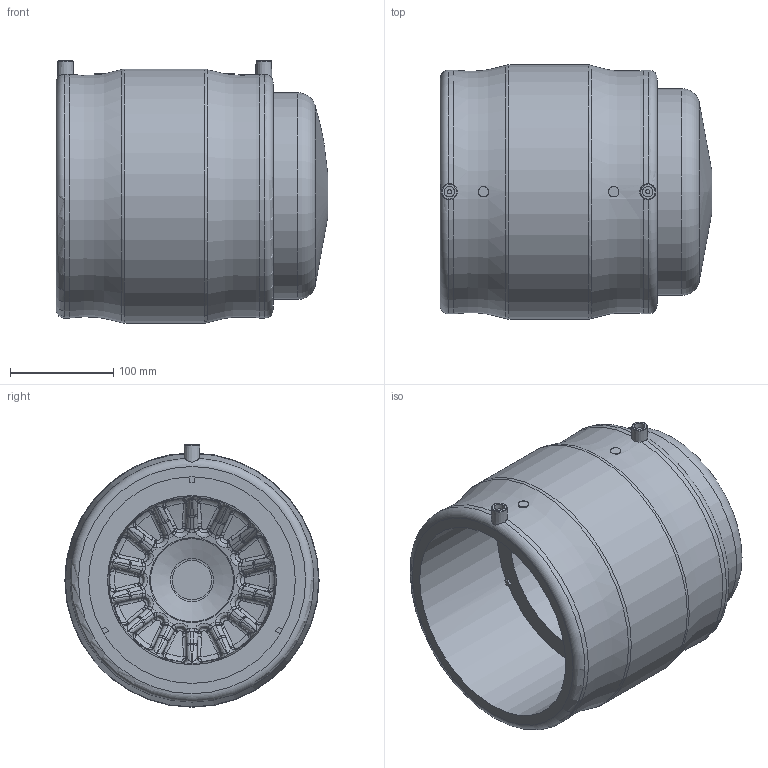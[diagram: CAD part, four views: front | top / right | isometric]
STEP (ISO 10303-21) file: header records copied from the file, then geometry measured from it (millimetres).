
FILE_DESCRIPTION(/* description */ ('Unknown'),/* implementation_level */ '2;1');
FILE_NAME(/* name */ 'CAEP200C',/* time_stamp */ '2021-02-11T10:25:30+01:00',/* author */ ('Unknown'),/* organization */ ('Unknown'),/* preprocessor_version */ 'ST-DEVELOPER v16.7',/* originating_system */ 'Solid Edge',/* authorisation */ 'Unknown');
FILE_SCHEMA (('AUTOMOTIVE_DESIGN {1 0 10303 214 3 1 1}'));
Length unit declared in the file: millimetre
Products named in the file (3): CAEP200C; MP200C; CAP200C
Assembly tree (2 placements, depth 2):
  CAEP200C
    MP200C
    CAP200C
Bounding box: 263 x 246 x 254 mm (x, y, z)
Volume: 4887334.5 mm3; surface area: 531302.8 mm2
Topology: 2 solids, 2 shells, 598 faces, 1383 edges, 797 vertices
Faces by surface type: bspline 364, torus 111, plane 56, cone 34, cylinder 18, sphere 15
Full cylindrical faces by diameter (mm): 4 x2, 10 x4, 163.6 x1, 200 x2, 246 x1
Entity records: 21176 total; most frequent: CARTESIAN_POINT 10108, ORIENTED_EDGE 2670, DIRECTION 1828, EDGE_CURVE 1335, AXIS2_PLACEMENT_3D 896, VERTEX_POINT 781, B_SPLINE_CURVE_WITH_KNOTS 640, EDGE_LOOP 640
